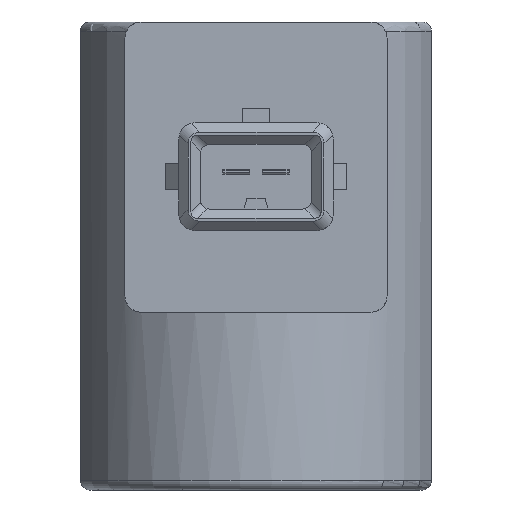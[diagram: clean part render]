
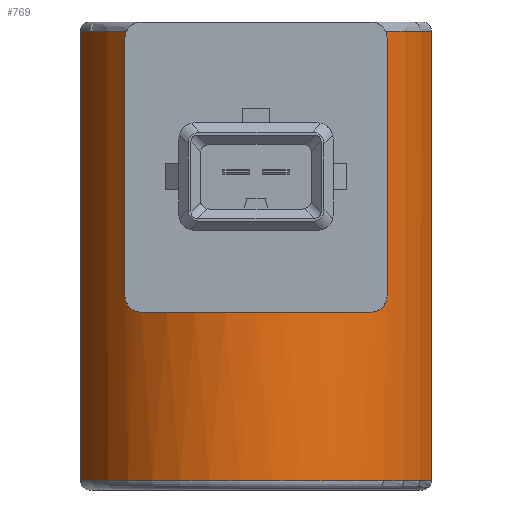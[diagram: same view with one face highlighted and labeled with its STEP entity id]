
A CAD part, left-side view. The second image highlights one B-rep face of the part: STEP entity #769.
In plain terms, the highlighted cylindrical face has radius 19.5 mm (diameter 39 mm), a partial arc.
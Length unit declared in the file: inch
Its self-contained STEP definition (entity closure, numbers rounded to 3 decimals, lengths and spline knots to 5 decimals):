
#233=CARTESIAN_POINT('',(6.25894,4.59615,-2.88976));
#234=VERTEX_POINT('',#233);
#249=CARTESIAN_POINT('',(6.25894,4.59615,-1.0));
#250=VERTEX_POINT('',#249);
#257=CARTESIAN_POINT('',(6.25894,4.59615,-1.0));
#258=DIRECTION('',(0.0,0.0,-1.0));
#259=VECTOR('',#258,1.88976);
#260=LINE('',#257,#259);
#261=EDGE_CURVE('',#250,#234,#260,.T.);
#284=CARTESIAN_POINT('',(5.92864,4.7898,-1.0));
#285=VERTEX_POINT('',#284);
#297=CARTESIAN_POINT('',(6.46981,5.33434,-1.0));
#298=DIRECTION('',(0.0,0.0,1.0));
#299=DIRECTION('',(-1.0,0.0,0.0));
#300=AXIS2_PLACEMENT_3D('',#297,#298,#299);
#301=CIRCLE('',#300,0.76772);
#302=EDGE_CURVE('',#285,#250,#301,.T.);
#417=CARTESIAN_POINT('',(6.25894,6.07253,-1.0));
#418=VERTEX_POINT('',#417);
#504=CARTESIAN_POINT('',(6.25894,6.07253,-2.88976));
#505=VERTEX_POINT('',#504);
#514=CARTESIAN_POINT('',(6.25894,6.07253,-1.0));
#515=DIRECTION('',(0.0,0.0,-1.0));
#516=VECTOR('',#515,1.88976);
#517=LINE('',#514,#516);
#518=EDGE_CURVE('',#418,#505,#517,.T.);
#627=CARTESIAN_POINT('',(6.46981,5.33434,-2.88976));
#628=DIRECTION('',(0.0,0.0,-1.0));
#629=DIRECTION('',(-1.0,0.0,0.0));
#630=AXIS2_PLACEMENT_3D('',#627,#628,#629);
#631=CIRCLE('',#630,0.76772);
#632=EDGE_CURVE('',#234,#505,#631,.T.);
#666=CARTESIAN_POINT('',(6.46981,5.33434,-0.96063));
#667=DIRECTION('',(0.0,0.0,-1.0));
#668=DIRECTION('',(-1.0,0.0,0.0));
#669=AXIS2_PLACEMENT_3D('',#666,#667,#668);
#670=CYLINDRICAL_SURFACE('',#669,0.76772);
#671=CARTESIAN_POINT('',(5.93541,4.78316,-1.02953));
#672=VERTEX_POINT('',#671);
#673=CARTESIAN_POINT('',(5.92864,4.7898,-1.));
#674=CARTESIAN_POINT('',(5.92927,4.78917,-1.00133));
#675=CARTESIAN_POINT('',(5.92987,4.78858,-1.00268));
#676=CARTESIAN_POINT('',(5.93202,4.78646,-1.00802));
#677=CARTESIAN_POINT('',(5.93328,4.78522,-1.01222));
#678=CARTESIAN_POINT('',(5.93498,4.78357,-1.0208));
#679=CARTESIAN_POINT('',(5.93541,4.78316,-1.0252));
#680=CARTESIAN_POINT('',(5.93541,4.78316,-1.02953));
#681=B_SPLINE_CURVE_WITH_KNOTS('',3,(#673,#674,#675,#676,#677,#678,#679,#680),.UNSPECIFIED.,.F.,.U.,(4,2,2,4),(-0.77574,-0.66013,-0.33006,0.0),.UNSPECIFIED.);
#682=EDGE_CURVE('',#285,#672,#681,.T.);
#683=ORIENTED_EDGE('',*,*,#682,.T.);
#684=CARTESIAN_POINT('',(5.93541,4.78316,-2.11221));
#685=VERTEX_POINT('',#684);
#686=CARTESIAN_POINT('',(5.93541,4.78316,-1.02953));
#687=DIRECTION('',(0.0,0.0,-1.0));
#688=VECTOR('',#687,1.08268);
#689=LINE('',#686,#688);
#690=EDGE_CURVE('',#672,#685,#689,.T.);
#691=ORIENTED_EDGE('',*,*,#690,.T.);
#692=CARTESIAN_POINT('',(5.87249,4.85205,-2.1811));
#693=VERTEX_POINT('',#692);
#694=CARTESIAN_POINT('',(5.93541,4.78316,-2.11221));
#695=CARTESIAN_POINT('',(5.93541,4.78316,-2.11654));
#696=CARTESIAN_POINT('',(5.93498,4.78357,-2.12093));
#697=CARTESIAN_POINT('',(5.93328,4.78522,-2.12952));
#698=CARTESIAN_POINT('',(5.93202,4.78646,-2.13371));
#699=CARTESIAN_POINT('',(5.92724,4.79118,-2.14557));
#700=CARTESIAN_POINT('',(5.92271,4.79572,-2.15254));
#701=CARTESIAN_POINT('',(5.91166,4.80714,-2.16538));
#702=CARTESIAN_POINT('',(5.90396,4.81535,-2.17133));
#703=CARTESIAN_POINT('',(5.88807,4.83323,-2.1792));
#704=CARTESIAN_POINT('',(5.87988,4.8429,-2.1811));
#705=CARTESIAN_POINT('',(5.87249,4.85205,-2.1811));
#706=B_SPLINE_CURVE_WITH_KNOTS('',3,(#694,#695,#696,#697,#698,#699,#700,#701,#702,#703,#704,#705),.UNSPECIFIED.,.F.,.U.,(4,2,2,2,2,4),(0.0,0.33006,0.66013,1.32026,2.21635,3.11244),.UNSPECIFIED.);
#707=EDGE_CURVE('',#685,#693,#706,.T.);
#708=ORIENTED_EDGE('',*,*,#707,.T.);
#709=CARTESIAN_POINT('',(5.87249,5.81662,-2.1811));
#710=VERTEX_POINT('',#709);
#711=CARTESIAN_POINT('',(6.46981,5.33434,-2.1811));
#712=DIRECTION('',(0.0,0.0,-1.0));
#713=DIRECTION('',(-1.0,0.0,0.0));
#714=AXIS2_PLACEMENT_3D('',#711,#712,#713);
#715=CIRCLE('',#714,0.76772);
#716=EDGE_CURVE('',#693,#710,#715,.T.);
#717=ORIENTED_EDGE('',*,*,#716,.T.);
#718=CARTESIAN_POINT('',(5.93541,5.88552,-2.11221));
#719=VERTEX_POINT('',#718);
#720=CARTESIAN_POINT('',(5.87249,5.81662,-2.1811));
#721=CARTESIAN_POINT('',(5.87988,5.82577,-2.1811));
#722=CARTESIAN_POINT('',(5.88807,5.83544,-2.1792));
#723=CARTESIAN_POINT('',(5.90396,5.85332,-2.17133));
#724=CARTESIAN_POINT('',(5.91166,5.86154,-2.16538));
#725=CARTESIAN_POINT('',(5.92271,5.87295,-2.15254));
#726=CARTESIAN_POINT('',(5.92724,5.8775,-2.14557));
#727=CARTESIAN_POINT('',(5.93202,5.88221,-2.13371));
#728=CARTESIAN_POINT('',(5.93328,5.88345,-2.12952));
#729=CARTESIAN_POINT('',(5.93498,5.8851,-2.12093));
#730=CARTESIAN_POINT('',(5.93541,5.88552,-2.11654));
#731=CARTESIAN_POINT('',(5.93541,5.88552,-2.11221));
#732=B_SPLINE_CURVE_WITH_KNOTS('',3,(#720,#721,#722,#723,#724,#725,#726,#727,#728,#729,#730,#731),.UNSPECIFIED.,.F.,.U.,(4,2,2,2,2,4),(-3.11244,-2.21635,-1.32026,-0.66013,-0.33006,0.0),.UNSPECIFIED.);
#733=EDGE_CURVE('',#710,#719,#732,.T.);
#734=ORIENTED_EDGE('',*,*,#733,.T.);
#735=CARTESIAN_POINT('',(5.93541,5.88552,-1.02953));
#736=VERTEX_POINT('',#735);
#737=CARTESIAN_POINT('',(5.93541,5.88552,-2.11221));
#738=DIRECTION('',(0.0,0.0,1.0));
#739=VECTOR('',#738,1.08268);
#740=LINE('',#737,#739);
#741=EDGE_CURVE('',#719,#736,#740,.T.);
#742=ORIENTED_EDGE('',*,*,#741,.T.);
#743=CARTESIAN_POINT('',(5.92864,5.87887,-1.0));
#744=VERTEX_POINT('',#743);
#745=CARTESIAN_POINT('',(5.93541,5.88552,-1.02953));
#746=CARTESIAN_POINT('',(5.93541,5.88552,-1.0252));
#747=CARTESIAN_POINT('',(5.93498,5.8851,-1.0208));
#748=CARTESIAN_POINT('',(5.93328,5.88345,-1.01222));
#749=CARTESIAN_POINT('',(5.93202,5.88221,-1.00802));
#750=CARTESIAN_POINT('',(5.92987,5.88009,-1.00268));
#751=CARTESIAN_POINT('',(5.92927,5.8795,-1.00133));
#752=CARTESIAN_POINT('',(5.92864,5.87887,-1.));
#753=B_SPLINE_CURVE_WITH_KNOTS('',3,(#745,#746,#747,#748,#749,#750,#751,#752),.UNSPECIFIED.,.F.,.U.,(4,2,2,4),(0.0,0.33006,0.66013,0.77574),.UNSPECIFIED.);
#754=EDGE_CURVE('',#736,#744,#753,.T.);
#755=ORIENTED_EDGE('',*,*,#754,.T.);
#756=CARTESIAN_POINT('',(6.46981,5.33434,-1.0));
#757=DIRECTION('',(0.0,0.0,1.0));
#758=DIRECTION('',(-1.0,0.0,0.0));
#759=AXIS2_PLACEMENT_3D('',#756,#757,#758);
#760=CIRCLE('',#759,0.76772);
#761=EDGE_CURVE('',#418,#744,#760,.T.);
#762=ORIENTED_EDGE('',*,*,#761,.F.);
#763=ORIENTED_EDGE('',*,*,#518,.T.);
#764=ORIENTED_EDGE('',*,*,#632,.F.);
#765=ORIENTED_EDGE('',*,*,#261,.F.);
#766=ORIENTED_EDGE('',*,*,#302,.F.);
#767=EDGE_LOOP('',(#683,#691,#708,#717,#734,#742,#755,#762,#763,#764,#765,#766));
#768=FACE_OUTER_BOUND('',#767,.T.);
#769=ADVANCED_FACE('',(#768),#670,.T.);
